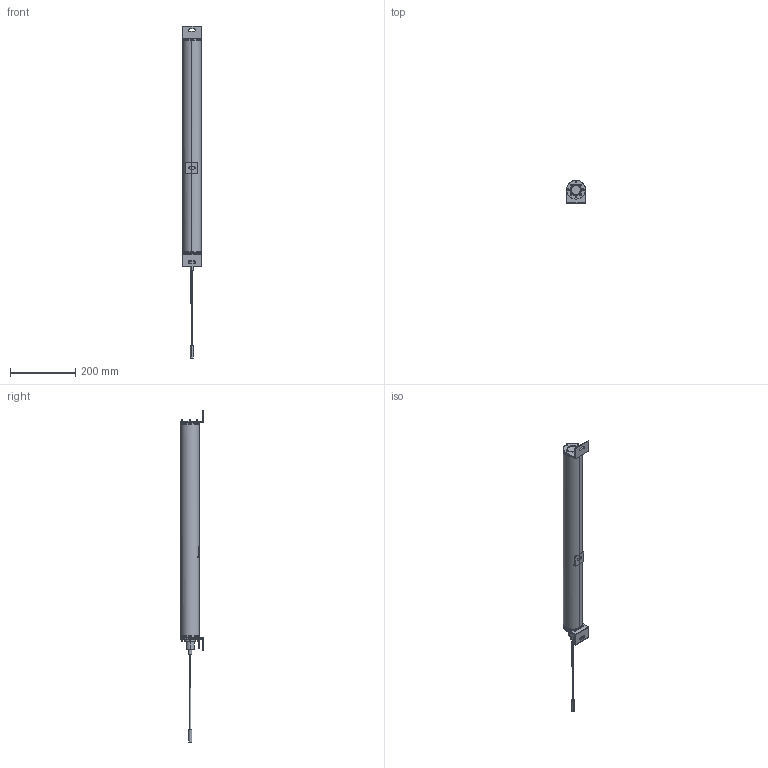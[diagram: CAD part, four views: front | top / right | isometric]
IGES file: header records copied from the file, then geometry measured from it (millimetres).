
Global section: file name: C:\ACADFILES\MG_PYLONS\CUSTOMER_FILES\MG-24-PYLON_3D_SMB_PT.igs; native system: AutoCAD-18.2s (LMS Tech) (Microsoft Windows NT Version 6.1 (x86)); preprocessor: Autodesk IGES Translator Mechanical Desktop 2011 (Feb 18 2011) from Autodesk, Inc.; date: 20140328.134751; units: inch
Bounding box: 57.29 x 69.85 x 1016.37 mm (x, y, z)
Surface area: 555011.1 mm2 (no closed solid volume)
Topology: 0 solids, 0 shells, 1800 faces, 9329 edges, 9504 vertices
Faces by surface type: bspline 1800
